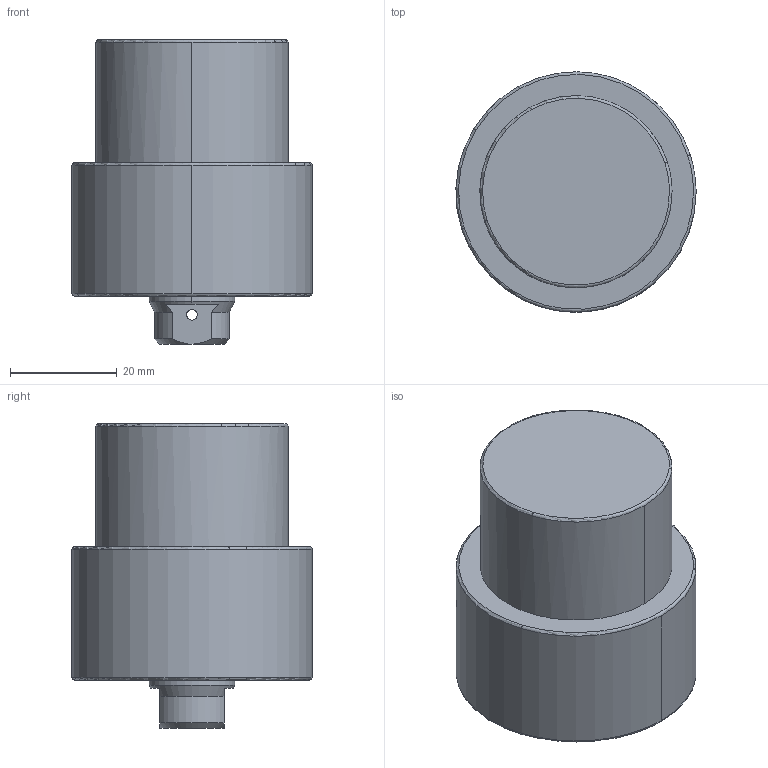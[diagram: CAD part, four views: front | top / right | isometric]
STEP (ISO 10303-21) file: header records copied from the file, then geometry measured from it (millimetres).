
FILE_DESCRIPTION((' '),'2;1');
FILE_NAME( 'TLLU-036GB-015.STEP.stp', '2025-10-24T16:37:04', (' '), ('--- Datakit www.datakit.com---'), ' Datakit CrossCadWare V2024.1 Dec 21 2023', 'Mastercam 2025', ' ');
FILE_SCHEMA(('AUTOMOTIVE_DESIGN { 1 0 10303 214 1 1 1 1 }'));
Length unit declared in the file: millimetre
Products named in the file (1): TLLU-036GB-015
Bounding box: 44.99 x 45 x 57 mm (x, y, z)
Volume: 63555.6 mm3; surface area: 10465.6 mm2
Topology: 1 solids, 1 shells, 66 faces, 192 edges, 125 vertices
Faces by surface type: cylinder 26, cone 24, plane 10, torus 6
Entity records: 2820 total; most frequent: CARTESIAN_POINT 1010, DIRECTION 412, ORIENTED_EDGE 364, EDGE_CURVE 182, AXIS2_PLACEMENT_3D 179, VERTEX_POINT 125, CIRCLE 112, EDGE_LOOP 77
